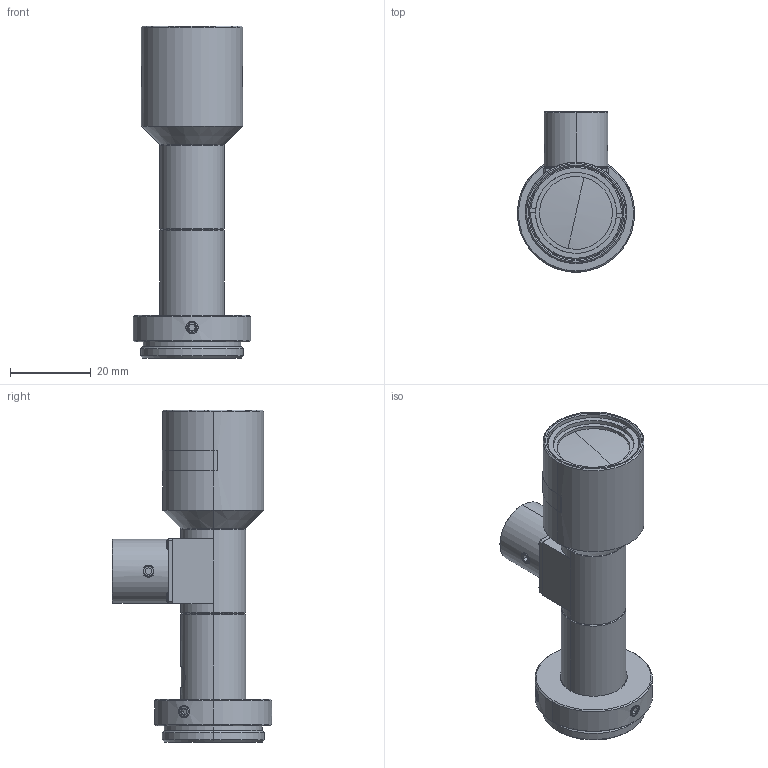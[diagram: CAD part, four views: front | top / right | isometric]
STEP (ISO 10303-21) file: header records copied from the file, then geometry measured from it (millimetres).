
FILE_DESCRIPTION (( 'STEP AP214' ), '1' );
FILE_NAME ('TEC-M1065MPC_210312.STEP', '2021-03-12T00:30:32', ( '' ), ( '' ), 'SwSTEP 2.0', 'SolidWorks 2019', '' );
FILE_SCHEMA (( 'AUTOMOTIVE_DESIGN' ));
Length unit declared in the file: millimetre
Products named in the file (1): TEC-M1065MPC_210312
Bounding box: 29 x 39.5 x 82.01 mm (x, y, z)
Volume: 17909.9 mm3; surface area: 16820.5 mm2
Topology: 17 solids, 17 shells, 531 faces, 1243 edges, 773 vertices
Faces by surface type: plane 205, cylinder 148, cone 142, torus 16, sphere 12, bspline 8
Entity records: 22821 total; most frequent: CARTESIAN_POINT 4365, DIRECTION 2750, ORIENTED_EDGE 2470, EDGE_CURVE 1235, AXIS2_PLACEMENT_3D 1102, VERTEX_POINT 773, EDGE_LOOP 598, CIRCLE 578
